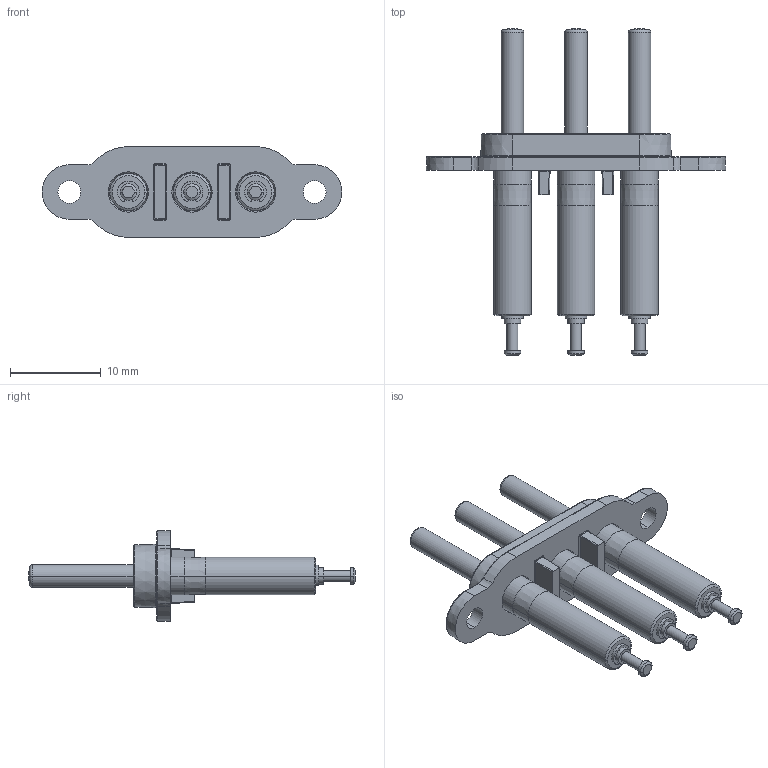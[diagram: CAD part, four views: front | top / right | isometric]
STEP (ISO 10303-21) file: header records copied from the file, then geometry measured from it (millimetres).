
FILE_DESCRIPTION (( 'STEP AP214' ), '1' );
FILE_NAME ('ICA-3-SCT.STEP', '2023-02-08T10:12:53', ( '' ), ( '' ), 'SwSTEP 2.0', 'SolidWorks 2022', '' );
FILE_SCHEMA (( 'AUTOMOTIVE_DESIGN' ));
Length unit declared in the file: millimetre
Products named in the file (3): ISC2JST; SD SC 3; ICA-3-SCT
Assembly tree (4 placements, depth 2):
  ICA-3-SCT
    SD SC 3
    ISC2JST  x3
Bounding box: 33 x 35.95 x 10 mm (x, y, z)
Volume: 1586.5 mm3; surface area: 2161.2 mm2
Topology: 13 solids, 13 shells, 301 faces, 710 edges, 447 vertices
Faces by surface type: bspline 124, cylinder 78, plane 45, cone 42, sphere 6, torus 6
Entity records: 6548 total; most frequent: CARTESIAN_POINT 1777, ORIENTED_EDGE 796, DIRECTION 640, EDGE_CURVE 398, AXIS2_PLACEMENT_3D 256, VERTEX_POINT 245, EDGE_LOOP 185, ADVANCED_FACE 169
